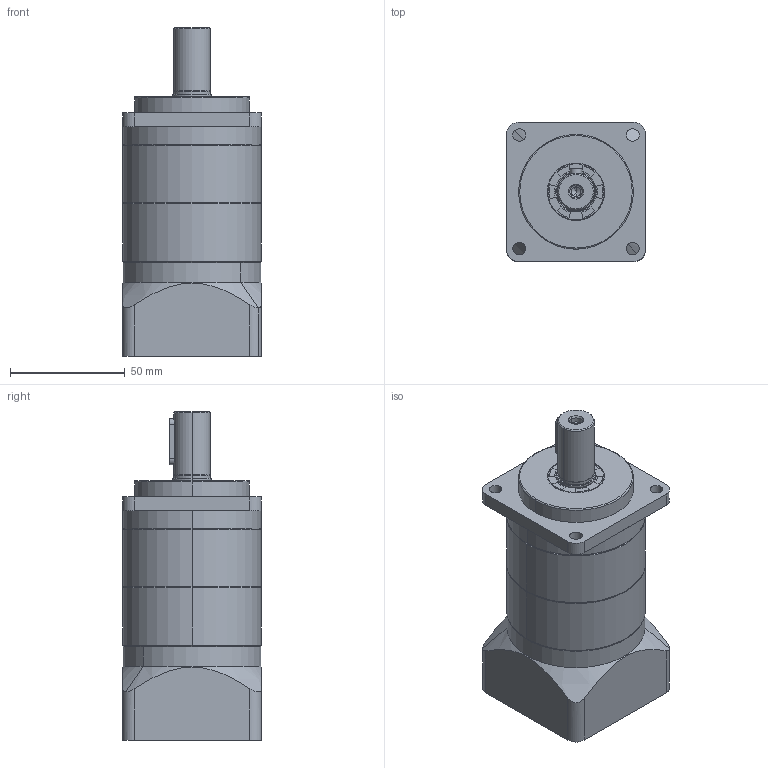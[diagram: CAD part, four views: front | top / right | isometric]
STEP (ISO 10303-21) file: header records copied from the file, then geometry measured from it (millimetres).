
FILE_DESCRIPTION (( 'STEP AP203' ), '1' );
FILE_NAME ('SA60-L2(6.35-38.1-66.67-M4).STEP', '2022-03-11T18:25:17', ( '' ), ( '' ), 'SwSTEP 2.0', 'SolidWorks 2016', '' );
FILE_SCHEMA (( 'CONFIG_CONTROL_DESIGN' ));
Length unit declared in the file: millimetre
Products named in the file (9): SN60-(16x29-5x20); SN60-(14); 60-(o14-6.35x17); SN60-(38.1-66.67-M4); SA60-L2(6.35-38.1-66.67-M4); SN60; SA60-(50x7-70-5.5)-; SN60-34x20x10.5-M5; SN60-17x25x4
Assembly tree (9 placements, depth 2):
  SA60-L2(6.35-38.1-66.67-M4)
    SA60-(50x7-70-5.5)-
    SN60-17x25x4
    SN60-(16x29-5x20)
    SN60  x2
    SN60-(38.1-66.67-M4)
    SN60-(14)
    SN60-34x20x10.5-M5
    60-(o14-6.35x17)
Bounding box: 60.5 x 60.5 x 143 mm (x, y, z)
Volume: 327461.7 mm3; surface area: 78240.3 mm2
Topology: 12 solids, 12 shells, 439 faces, 1101 edges, 696 vertices
Faces by surface type: cylinder 222, plane 112, cone 58, bspline 39, torus 8
Entity records: 32088 total; most frequent: CARTESIAN_POINT 21505, ORIENTED_EDGE 2090, DIRECTION 1938, EDGE_CURVE 1045, AXIS2_PLACEMENT_3D 762, VERTEX_POINT 672, EDGE_LOOP 491, FACE_OUTER_BOUND 423
